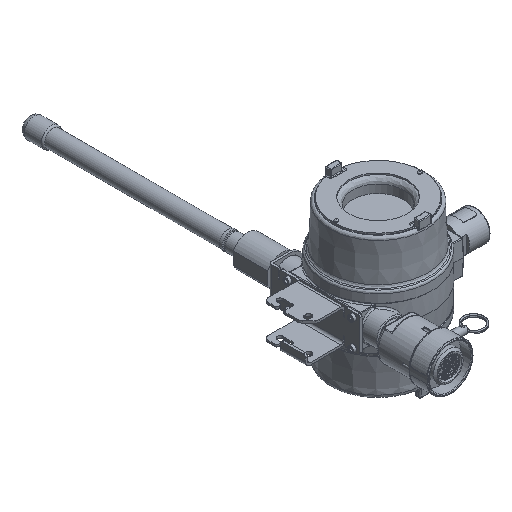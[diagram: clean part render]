
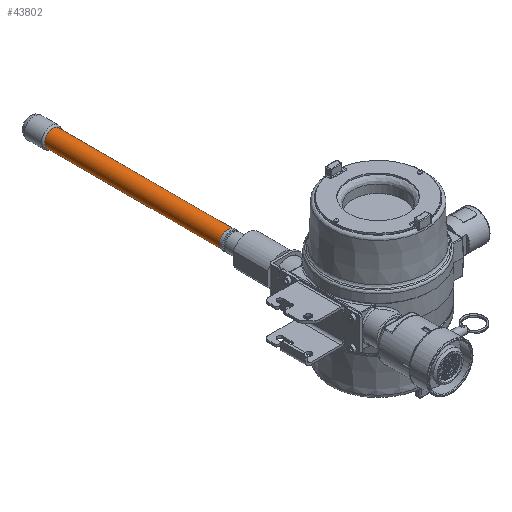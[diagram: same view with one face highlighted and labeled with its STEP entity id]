
A CAD part, isometric view. The second image highlights one B-rep face of the part: STEP entity #43802.
In plain terms, the highlighted cylindrical face has radius 9.525 mm (diameter 19.05 mm), a full revolution.
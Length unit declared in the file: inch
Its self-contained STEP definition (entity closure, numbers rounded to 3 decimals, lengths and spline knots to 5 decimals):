
#3280 = DIRECTION ( 'NONE',  ( 0., 1., 0. ) ) ;
#4225 = EDGE_LOOP ( 'NONE', ( #35862 ) ) ;
#5601 = CARTESIAN_POINT ( 'NONE',  ( -1.75, 5.005, -0.375 ) ) ;
#9925 = CARTESIAN_POINT ( 'NONE',  ( -1.75, 12.8572, -0.375 ) ) ;
#11714 = AXIS2_PLACEMENT_3D ( 'NONE', #21071, #3280, #21996 ) ;
#13407 = CARTESIAN_POINT ( 'NONE',  ( -1.75, 12.8572, 0. ) ) ;
#14583 = EDGE_CURVE ( 'NONE', #16359, #16359, #15235, .T. ) ;
#15235 = CIRCLE ( 'NONE', #25830, 0.375 ) ;
#16359 = VERTEX_POINT ( 'NONE', #9925 ) ;
#19479 = DIRECTION ( 'NONE',  ( 0., -1., 0. ) ) ;
#19715 = FACE_OUTER_BOUND ( 'NONE', #4225, .T. ) ;
#20084 = ORIENTED_EDGE ( 'NONE', *, *, #14583, .T. ) ;
#20181 = DIRECTION ( 'NONE',  ( 0., 0., -1. ) ) ;
#20752 = DIRECTION ( 'NONE',  ( 0., 0., -1. ) ) ;
#20985 = DIRECTION ( 'NONE',  ( 0., -1., 0. ) ) ;
#21071 = CARTESIAN_POINT ( 'NONE',  ( -1.75, 5.005, 0. ) ) ;
#21996 = DIRECTION ( 'NONE',  ( 0., 0., -1. ) ) ;
#25830 = AXIS2_PLACEMENT_3D ( 'NONE', #13407, #20985, #20752 ) ;
#26660 = EDGE_CURVE ( 'NONE', #41690, #41690, #27584, .T. ) ;
#27584 = CIRCLE ( 'NONE', #11714, 0.375 ) ;
#35862 = ORIENTED_EDGE ( 'NONE', *, *, #26660, .T. ) ;
#41690 = VERTEX_POINT ( 'NONE', #5601 ) ;
#42018 = CARTESIAN_POINT ( 'NONE',  ( -1.75, 4.03456, 0. ) ) ;
#42613 = EDGE_LOOP ( 'NONE', ( #20084 ) ) ;
#43802 = ADVANCED_FACE ( 'NONE', ( #19715, #44637 ), #45335, .T. ) ;
#44637 = FACE_OUTER_BOUND ( 'NONE', #42613, .T. ) ;
#45335 = CYLINDRICAL_SURFACE ( 'NONE', #46499, 0.375 ) ;
#46499 = AXIS2_PLACEMENT_3D ( 'NONE', #42018, #19479, #20181 ) ;
